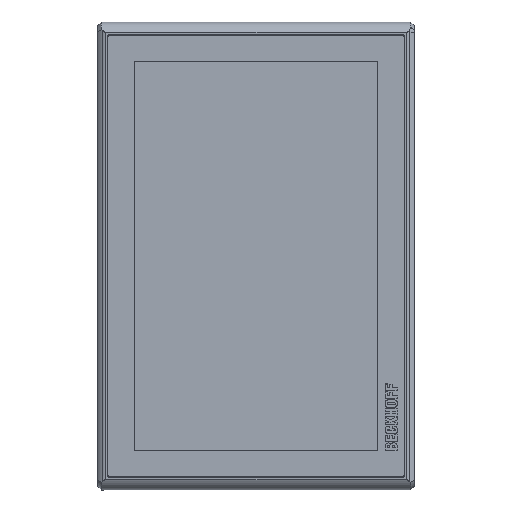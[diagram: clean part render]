
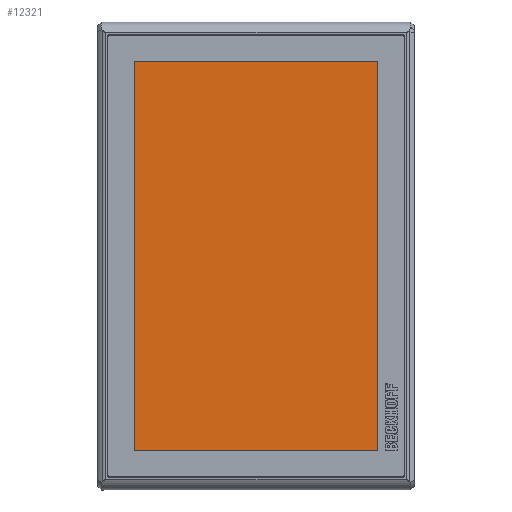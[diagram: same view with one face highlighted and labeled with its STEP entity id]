
A CAD part, top view. The second image highlights one B-rep face of the part: STEP entity #12321.
In plain terms, the highlighted planar face has unit normal (0, 0, 1).
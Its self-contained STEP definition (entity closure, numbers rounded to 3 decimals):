
#1511=FACE_OUTER_BOUND('',#2240,.T.);
#2240=EDGE_LOOP('',(#7917,#7918,#7919,#7920));
#3052=LINE('',#18739,#3928);
#3053=LINE('',#18741,#3929);
#3054=LINE('',#18743,#3930);
#3055=LINE('',#18744,#3931);
#3928=VECTOR('',#14536,10.);
#3929=VECTOR('',#14537,10.);
#3930=VECTOR('',#14538,10.);
#3931=VECTOR('',#14539,10.);
#4828=VERTEX_POINT('',#18737);
#4829=VERTEX_POINT('',#18738);
#4830=VERTEX_POINT('',#18740);
#4831=VERTEX_POINT('',#18742);
#6031=EDGE_CURVE('',#4828,#4829,#3052,.T.);
#6032=EDGE_CURVE('',#4830,#4828,#3053,.T.);
#6033=EDGE_CURVE('',#4831,#4830,#3054,.T.);
#6034=EDGE_CURVE('',#4829,#4831,#3055,.T.);
#7917=ORIENTED_EDGE('',*,*,#6031,.F.);
#7918=ORIENTED_EDGE('',*,*,#6032,.F.);
#7919=ORIENTED_EDGE('',*,*,#6033,.F.);
#7920=ORIENTED_EDGE('',*,*,#6034,.F.);
#11342=PLANE('',#13093);
#12321=ADVANCED_FACE('',(#1511),#11342,.T.);
#13093=AXIS2_PLACEMENT_3D('',#18736,#14534,#14535);
#14534=DIRECTION('center_axis',(0.,0.,
1.));
#14535=DIRECTION('ref_axis',(0.,-1.,0.));
#14536=DIRECTION('',(0.,1.,0.));
#14537=DIRECTION('',(-1.,0.,0.));
#14538=DIRECTION('',(0.,-1.,0.));
#14539=DIRECTION('',(1.,0.,0.));
#18736=CARTESIAN_POINT('Origin',(0.,0.,
11.3));
#18737=CARTESIAN_POINT('',(-82.4,-131.4,11.3));
#18738=CARTESIAN_POINT('',(-82.4,131.4,11.3));
#18739=CARTESIAN_POINT('',(-82.4,65.7,11.3));
#18740=CARTESIAN_POINT('',(82.4,-131.4,11.3));
#18741=CARTESIAN_POINT('',(-41.2,-131.4,11.3));
#18742=CARTESIAN_POINT('',(82.4,131.4,11.3));
#18743=CARTESIAN_POINT('',(82.4,-65.7,11.3));
#18744=CARTESIAN_POINT('',(41.2,131.4,11.3));
